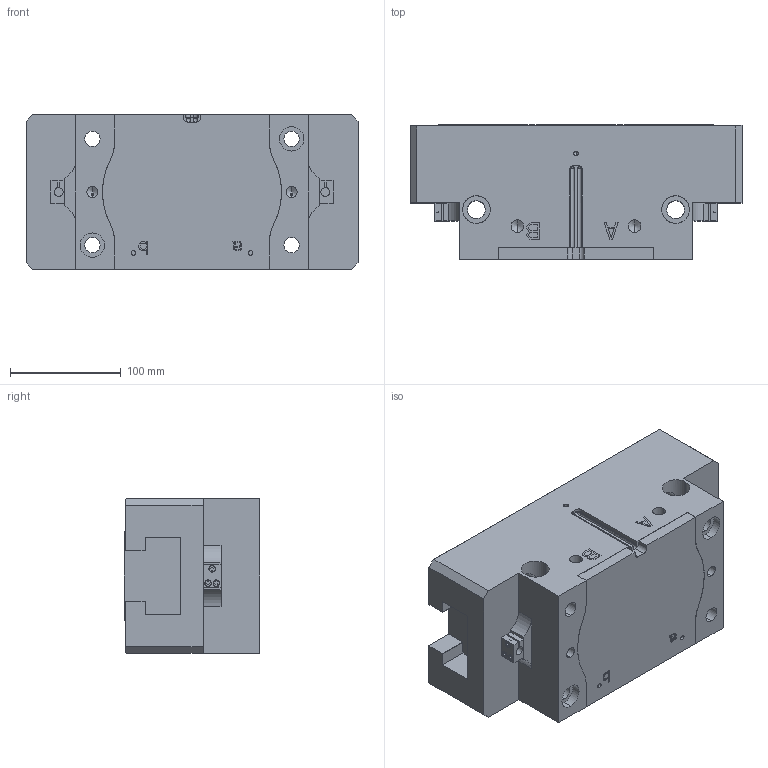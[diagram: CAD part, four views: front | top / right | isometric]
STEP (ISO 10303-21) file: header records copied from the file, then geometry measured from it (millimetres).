
FILE_DESCRIPTION (( 'STEP AP214' ), '1' );
FILE_NAME ('FPT 300A-1.STEP', '2021-09-18T08:49:12', ( 'DEEP' ), ( 'Microsoft' ), 'SwSTEP 2.0', 'SolidWorks 2016', '' );
FILE_SCHEMA (( 'AUTOMOTIVE_DESIGN' ));
Length unit declared in the file: millimetre
Products named in the file (15): FPT 300A-1-002; FPT 300A-1-001; FPT 300A-1; FPT 300A-1-004; FPT 300A-1-005; FPT 300A-1-003; FPT 300A-1-006
Assembly tree (8 placements, depth 2):
  FPT 300A-1-002
  FPT 300A-1-001
  FPT 300A-1
    FPT 300A-1-001
    FPT 300A-1-002
    FPT 300A-1-006
    FPT 300A-1-003  x2
    FPT 300A-1-005
    FPT 300A-1-004  x2
  FPT 300A-1-004
  FPT 300A-1-004
Bounding box: 300 x 122 x 140 mm (x, y, z)
Volume: 4023175.1 mm3; surface area: 406807.1 mm2
Topology: 8 solids, 8 shells, 619 faces, 1618 edges, 1039 vertices
Faces by surface type: plane 378, cylinder 171, cone 64, bspline 6
Entity records: 17785 total; most frequent: CARTESIAN_POINT 3825, ORIENTED_EDGE 2752, DIRECTION 2750, EDGE_CURVE 1376, VECTOR 1006, LINE 1006, VERTEX_POINT 909, AXIS2_PLACEMENT_3D 872
